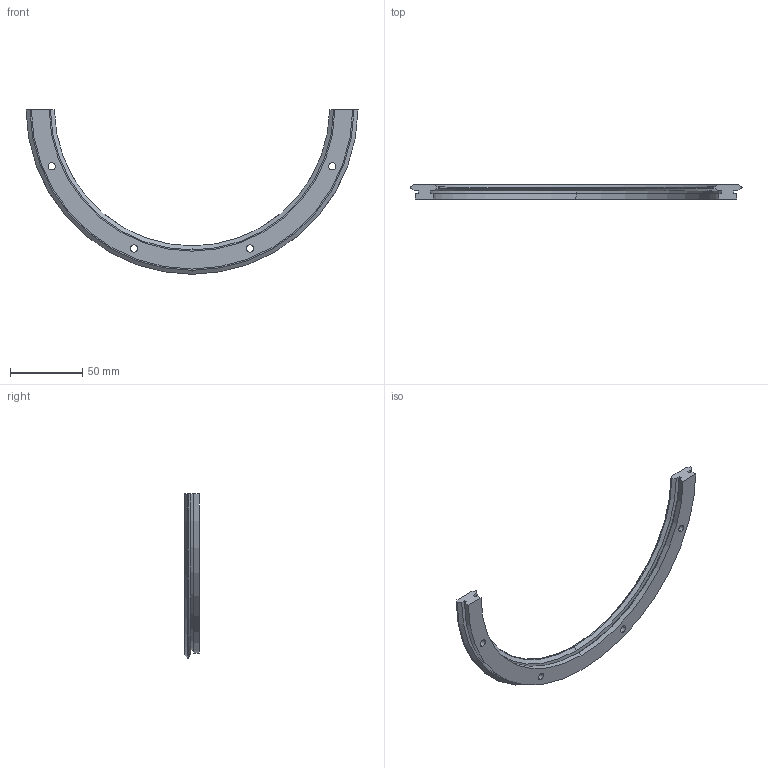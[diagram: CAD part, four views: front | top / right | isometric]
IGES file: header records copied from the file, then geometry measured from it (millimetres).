
Start section: 3D InterOp IGES (v. 2020 1.0.1), Spatial Corp. Copyright (c) 1999-2017.
Global section: file name: r20_210_r180.igs; native system: Spatial Corp.; preprocessor: 3D InterOp ACIS/IGES; author: TraceParts; organization: TraceParts S.A.; date: 20220624.024412; units: millimetre
Bounding box: 229.62 x 10 x 113.81 mm (x, y, z)
Surface area: 21221.3 mm2 (no closed solid volume)
Topology: 0 solids, 0 shells, 52 faces, 264 edges, 264 vertices
Faces by surface type: revolution 40, extrusion 12
